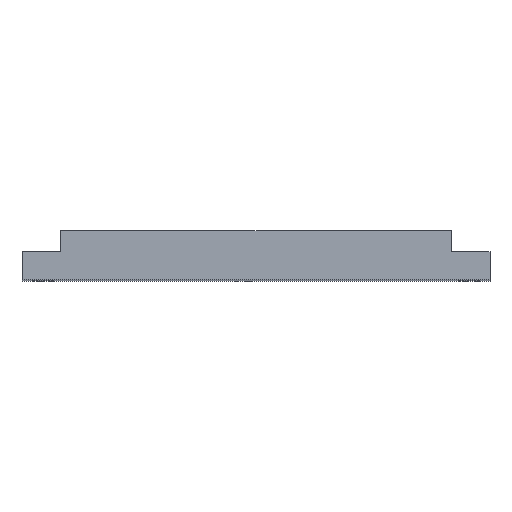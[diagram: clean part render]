
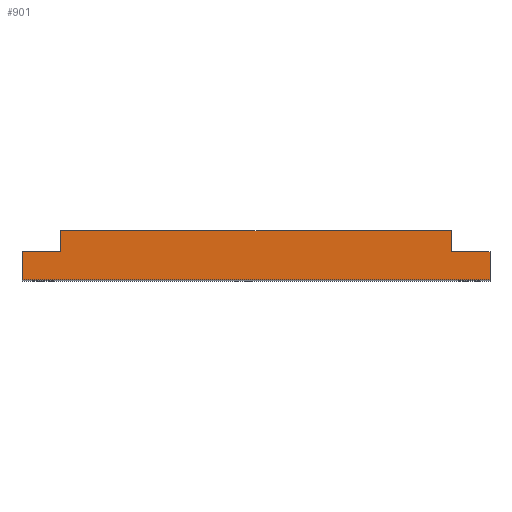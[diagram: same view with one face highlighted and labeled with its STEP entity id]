
A CAD part, top view. The second image highlights one B-rep face of the part: STEP entity #901.
In plain terms, the highlighted planar face has unit normal (0, 0, 1).
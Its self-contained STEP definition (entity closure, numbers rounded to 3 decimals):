
#34 = ORIENTED_EDGE ( 'NONE', *, *, #569, .T. ) ;
#58 = CARTESIAN_POINT ( 'NONE',  ( 50., -3., 192. ) ) ;
#88 = AXIS2_PLACEMENT_3D ( 'NONE', #811, #870, #641 ) ;
#100 = CARTESIAN_POINT ( 'NONE',  ( 41.75, 7.5, 192. ) ) ;
#117 = ORIENTED_EDGE ( 'NONE', *, *, #487, .T. ) ;
#122 = LINE ( 'NONE', #342, #497 ) ;
#123 = CARTESIAN_POINT ( 'NONE',  ( -50., -3., 192. ) ) ;
#128 = CARTESIAN_POINT ( 'NONE',  ( 50., 3., 192. ) ) ;
#134 = EDGE_LOOP ( 'NONE', ( #518, #34, #680, #117, #314, #532, #156, #846 ) ) ;
#156 = ORIENTED_EDGE ( 'NONE', *, *, #245, .T. ) ;
#172 = LINE ( 'NONE', #419, #841 ) ;
#205 = DIRECTION ( 'NONE',  ( 0., 1., 0. ) ) ;
#219 = LINE ( 'NONE', #799, #835 ) ;
#237 = VECTOR ( 'NONE', #264, 1000. ) ;
#241 = CARTESIAN_POINT ( 'NONE',  ( -41.75, 7.5, 192. ) ) ;
#245 = EDGE_CURVE ( 'NONE', #345, #896, #219, .T. ) ;
#263 = LINE ( 'NONE', #128, #237 ) ;
#264 = DIRECTION ( 'NONE',  ( -1., 0., 0. ) ) ;
#283 = CARTESIAN_POINT ( 'NONE',  ( -41.75, 3., 192. ) ) ;
#314 = ORIENTED_EDGE ( 'NONE', *, *, #632, .T. ) ;
#342 = CARTESIAN_POINT ( 'NONE',  ( 50., -3., 192. ) ) ;
#345 = VERTEX_POINT ( 'NONE', #241 ) ;
#347 = VERTEX_POINT ( 'NONE', #100 ) ;
#348 = CARTESIAN_POINT ( 'NONE',  ( 50., 3., 192. ) ) ;
#349 = CARTESIAN_POINT ( 'NONE',  ( -50., 3., 192. ) ) ;
#406 = EDGE_CURVE ( 'NONE', #620, #541, #732, .T. ) ;
#407 = VECTOR ( 'NONE', #555, 1000. ) ;
#419 = CARTESIAN_POINT ( 'NONE',  ( -41.75, 7.5, 192. ) ) ;
#420 = FACE_OUTER_BOUND ( 'NONE', #134, .T. ) ;
#422 = CARTESIAN_POINT ( 'NONE',  ( 41.75, 3., 192. ) ) ;
#479 = CARTESIAN_POINT ( 'NONE',  ( 50., -3., 192. ) ) ;
#487 = EDGE_CURVE ( 'NONE', #688, #695, #263, .T. ) ;
#497 = VECTOR ( 'NONE', #691, 1000. ) ;
#507 = CARTESIAN_POINT ( 'NONE',  ( -41.75, 3., 192. ) ) ;
#518 = ORIENTED_EDGE ( 'NONE', *, *, #406, .T. ) ;
#532 = ORIENTED_EDGE ( 'NONE', *, *, #567, .T. ) ;
#534 = CARTESIAN_POINT ( 'NONE',  ( -50., -3., 192. ) ) ;
#536 = LINE ( 'NONE', #58, #407 ) ;
#541 = VERTEX_POINT ( 'NONE', #123 ) ;
#555 = DIRECTION ( 'NONE',  ( 0., 1., 0. ) ) ;
#561 = VECTOR ( 'NONE', #778, 1000. ) ;
#565 = VECTOR ( 'NONE', #822, 1000. ) ;
#567 = EDGE_CURVE ( 'NONE', #347, #345, #172, .T. ) ;
#569 = EDGE_CURVE ( 'NONE', #541, #657, #122, .T. ) ;
#620 = VERTEX_POINT ( 'NONE', #349 ) ;
#621 = DIRECTION ( 'NONE',  ( -1., 0., 0. ) ) ;
#625 = CARTESIAN_POINT ( 'NONE',  ( 41.75, 7.5, 192. ) ) ;
#632 = EDGE_CURVE ( 'NONE', #695, #347, #713, .T. ) ;
#641 = DIRECTION ( 'NONE',  ( 1., 0., 0. ) ) ;
#657 = VERTEX_POINT ( 'NONE', #479 ) ;
#663 = VECTOR ( 'NONE', #205, 1000. ) ;
#671 = EDGE_CURVE ( 'NONE', #657, #688, #536, .T. ) ;
#676 = LINE ( 'NONE', #283, #561 ) ;
#680 = ORIENTED_EDGE ( 'NONE', *, *, #671, .T. ) ;
#688 = VERTEX_POINT ( 'NONE', #348 ) ;
#691 = DIRECTION ( 'NONE',  ( 1., 0., 0. ) ) ;
#695 = VERTEX_POINT ( 'NONE', #422 ) ;
#713 = LINE ( 'NONE', #625, #663 ) ;
#732 = LINE ( 'NONE', #534, #565 ) ;
#766 = EDGE_CURVE ( 'NONE', #896, #620, #676, .T. ) ;
#778 = DIRECTION ( 'NONE',  ( -1., 0., 0. ) ) ;
#799 = CARTESIAN_POINT ( 'NONE',  ( -41.75, 7.5, 192. ) ) ;
#803 = PLANE ( 'NONE',  #88 ) ;
#811 = CARTESIAN_POINT ( 'NONE',  ( 0., 0., 192. ) ) ;
#822 = DIRECTION ( 'NONE',  ( 0., -1., 0. ) ) ;
#835 = VECTOR ( 'NONE', #867, 1000. ) ;
#841 = VECTOR ( 'NONE', #621, 1000. ) ;
#846 = ORIENTED_EDGE ( 'NONE', *, *, #766, .T. ) ;
#867 = DIRECTION ( 'NONE',  ( 0., -1., 0. ) ) ;
#870 = DIRECTION ( 'NONE',  ( 0., 0., 1. ) ) ;
#896 = VERTEX_POINT ( 'NONE', #507 ) ;
#901 = ADVANCED_FACE ( 'NONE', ( #420 ), #803, .T. ) ;
